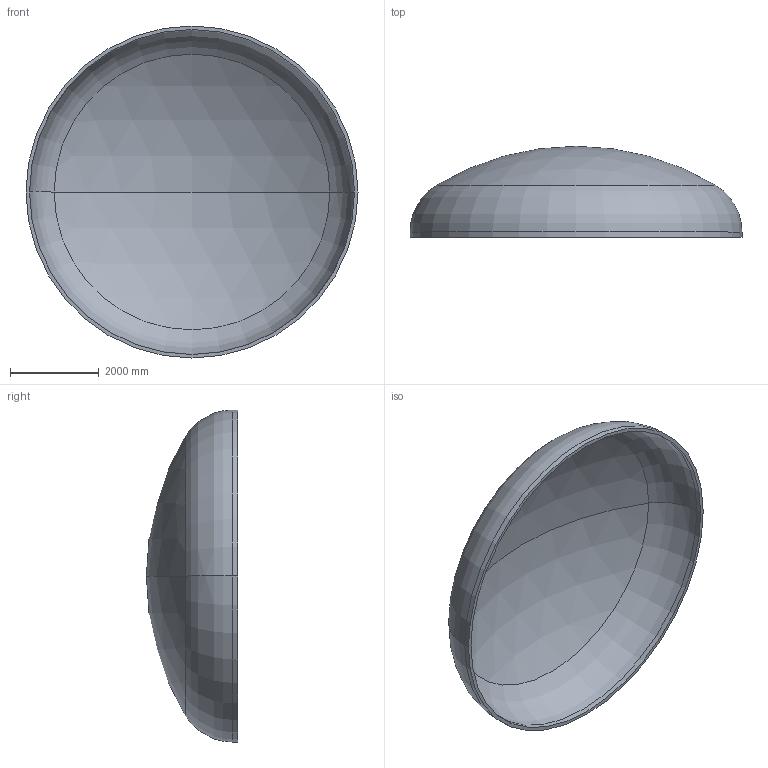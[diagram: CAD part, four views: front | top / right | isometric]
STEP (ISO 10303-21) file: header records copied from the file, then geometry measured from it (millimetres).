
FILE_DESCRIPTION (( 'STEP AP203' ), '1' );
FILE_NAME ('DIN 28013 Korbbogenform_-_Boden DIN 28013 - 7500 x 120 - I - s=80.step', '2016-07-04T10:56:02', ( '' ), ( '' ), 'SwSTEP 2.0', 'SolidWorks 2013', '' );
FILE_SCHEMA (( 'CONFIG_CONTROL_DESIGN' ));
Length unit declared in the file: millimetre
Products named in the file (1): DIN 28013 Korbbogenform_-_Boden DIN 28013 - 7500 x 120 - I - s=80
Bounding box: 7500 x 2058.89 x 7500 mm (x, y, z)
Volume: 5050160913.8 mm3; surface area: 128132227.8 mm2
Topology: 1 solids, 1 shells, 13 faces, 24 edges, 14 vertices
Faces by surface type: torus 4, cylinder 4, sphere 4, plane 1
Entity records: 407 total; most frequent: DIRECTION 72, CARTESIAN_POINT 52, ORIENTED_EDGE 48, AXIS2_PLACEMENT_3D 34, EDGE_CURVE 24, CIRCLE 20, VERTEX_POINT 14, EDGE_LOOP 14
